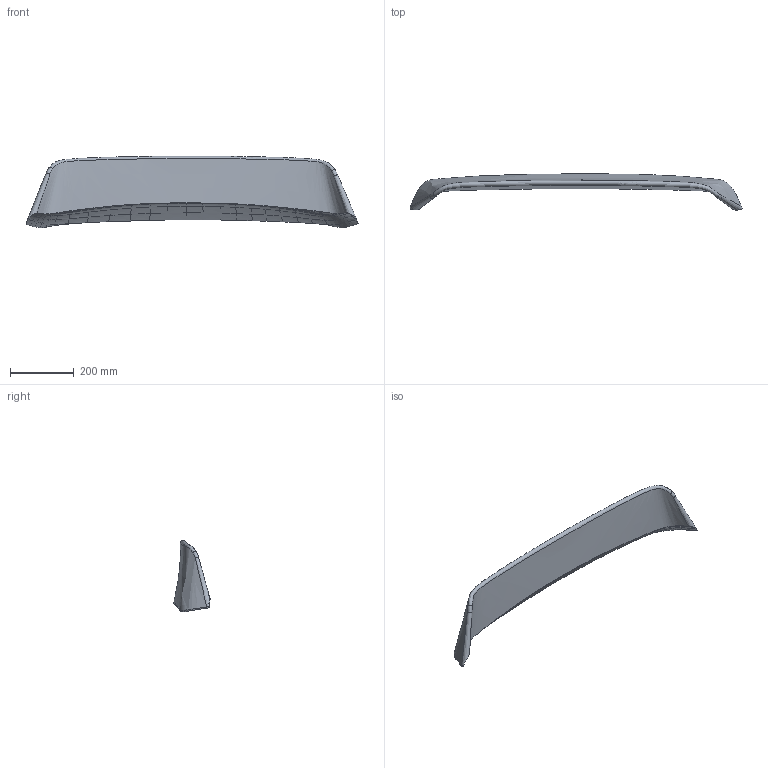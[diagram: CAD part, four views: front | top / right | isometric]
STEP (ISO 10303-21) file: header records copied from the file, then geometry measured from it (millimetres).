
FILE_DESCRIPTION(/* description */ (''),/* implementation_level */ '2;1');
FILE_NAME(/* name */ 'E:\projekty firma\projekty\skany\seicento bagaznik\Konrad Nowak - spoiler Seicento.stp',/* time_stamp */ '2021-09-24T03:43:29+02:00',/* author */ ('marcin'),/* organization */ (''),/* preprocessor_version */ 'ST-DEVELOPER v18.1',/* originating_system */ 'Autodesk Inventor 2022',/* authorisation */ '');
FILE_SCHEMA (('AUTOMOTIVE_DESIGN { 1 0 10303 214 3 1 1 }'));
Length unit declared in the file: millimetre
Products named in the file (1): spoiler v2 backup 2
Bounding box: 1039.62 x 113.22 x 223.86 mm (x, y, z)
Volume: 4341237.8 mm3; surface area: 441024.1 mm2
Topology: 1 solids, 1 shells, 168 faces, 439 edges, 273 vertices
Faces by surface type: bspline 168
Entity records: 12842 total; most frequent: CARTESIAN_POINT 10070, ORIENTED_EDGE 878, EDGE_CURVE 439, B_SPLINE_CURVE_WITH_KNOTS 432, VERTEX_POINT 273, FACE_OUTER_BOUND 168, EDGE_LOOP 168, B_SPLINE_SURFACE_WITH_KNOTS 168
